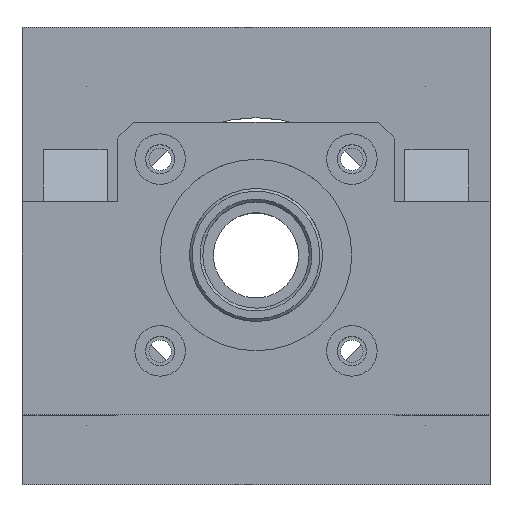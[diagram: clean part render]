
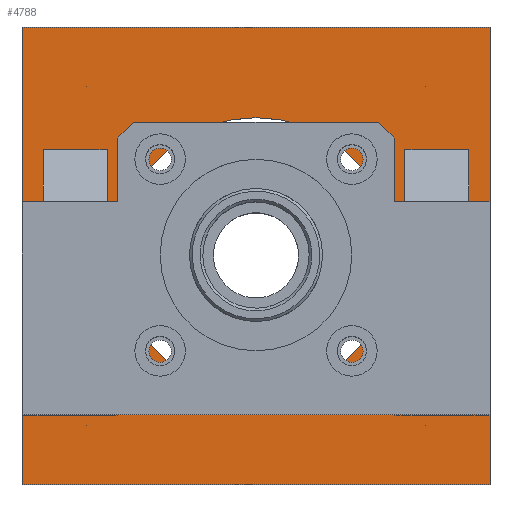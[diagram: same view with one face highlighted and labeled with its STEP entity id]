
A CAD part, top view. The second image highlights one B-rep face of the part: STEP entity #4788.
In plain terms, the highlighted planar face has unit normal (0, 0, 1).
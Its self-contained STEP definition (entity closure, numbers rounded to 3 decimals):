
#2503=DIRECTION('',(-1.,0.,0.));
#2504=VECTOR('',#2503,88.);
#2505=CARTESIAN_POINT('',(44.,43.,105.));
#2506=LINE('',#2505,#2504);
#2507=DIRECTION('',(0.,1.,0.));
#2508=VECTOR('',#2507,86.);
#2509=CARTESIAN_POINT('',(44.,-43.,105.));
#2510=LINE('',#2509,#2508);
#2511=DIRECTION('',(1.,0.,0.));
#2512=VECTOR('',#2511,88.);
#2513=CARTESIAN_POINT('',(-44.,-43.,105.));
#2514=LINE('',#2513,#2512);
#2515=DIRECTION('',(0.,-1.,0.));
#2516=VECTOR('',#2515,86.);
#2517=CARTESIAN_POINT('',(-44.,43.,105.));
#2518=LINE('',#2517,#2516);
#2519=DIRECTION('',(0.,1.,0.));
#2520=VECTOR('',#2519,50.);
#2521=CARTESIAN_POINT('',(28.,-30.,105.));
#2522=LINE('',#2521,#2520);
#2523=DIRECTION('',(-1.,0.,0.));
#2524=VECTOR('',#2523,12.);
#2525=CARTESIAN_POINT('',(40.,-30.,105.));
#2526=LINE('',#2525,#2524);
#2527=DIRECTION('',(0.,-1.,0.));
#2528=VECTOR('',#2527,50.);
#2529=CARTESIAN_POINT('',(40.,20.,105.));
#2530=LINE('',#2529,#2528);
#2531=DIRECTION('',(1.,0.,0.));
#2532=VECTOR('',#2531,12.);
#2533=CARTESIAN_POINT('',(28.,20.,105.));
#2534=LINE('',#2533,#2532);
#2535=CARTESIAN_POINT('',(0.,0.,105.));
#2536=DIRECTION('',(0.,0.,-1.));
#2537=DIRECTION('',(-1.,0.,0.));
#2538=AXIS2_PLACEMENT_3D('',#2535,#2536,#2537);
#2540=CARTESIAN_POINT('',(0.,0.,105.));
#2541=DIRECTION('',(0.,0.,-1.));
#2542=DIRECTION('',(1.,0.,0.));
#2543=AXIS2_PLACEMENT_3D('',#2540,#2541,#2542);
#2545=DIRECTION('',(0.,1.,0.));
#2546=VECTOR('',#2545,50.);
#2547=CARTESIAN_POINT('',(-40.,-30.,105.));
#2548=LINE('',#2547,#2546);
#2549=DIRECTION('',(-1.,0.,0.));
#2550=VECTOR('',#2549,12.);
#2551=CARTESIAN_POINT('',(-28.,-30.,105.));
#2552=LINE('',#2551,#2550);
#2553=DIRECTION('',(0.,-1.,0.));
#2554=VECTOR('',#2553,50.);
#2555=CARTESIAN_POINT('',(-28.,20.,105.));
#2556=LINE('',#2555,#2554);
#3421=DIRECTION('',(-1.,0.,0.));
#3422=VECTOR('',#3421,12.);
#3423=CARTESIAN_POINT('',(-28.,20.,105.));
#3424=LINE('',#3423,#3422);
#3629=CARTESIAN_POINT('',(28.,-30.,105.));
#3630=VERTEX_POINT('',#3629);
#3631=CARTESIAN_POINT('',(40.,-30.,105.));
#3632=VERTEX_POINT('',#3631);
#3661=CARTESIAN_POINT('',(-40.,-30.,105.));
#3662=VERTEX_POINT('',#3661);
#3663=CARTESIAN_POINT('',(-28.,-30.,105.));
#3664=VERTEX_POINT('',#3663);
#3728=CARTESIAN_POINT('',(44.,43.,105.));
#3729=CARTESIAN_POINT('',(-44.,43.,105.));
#3730=VERTEX_POINT('',#3728);
#3731=VERTEX_POINT('',#3729);
#3732=CARTESIAN_POINT('',(-44.,-43.,105.));
#3733=VERTEX_POINT('',#3732);
#3734=CARTESIAN_POINT('',(44.,-43.,105.));
#3735=VERTEX_POINT('',#3734);
#3736=CARTESIAN_POINT('',(28.,20.,105.));
#3737=VERTEX_POINT('',#3736);
#3738=CARTESIAN_POINT('',(40.,20.,105.));
#3739=VERTEX_POINT('',#3738);
#3740=CARTESIAN_POINT('',(-28.,20.,105.));
#3741=CARTESIAN_POINT('',(-40.,20.,105.));
#3742=VERTEX_POINT('',#3740);
#3743=VERTEX_POINT('',#3741);
#3926=CARTESIAN_POINT('',(-26.,0.,105.));
#3928=VERTEX_POINT('',#3926);
#3930=CARTESIAN_POINT('',(26.,0.,105.));
#3932=VERTEX_POINT('',#3930);
#4750=CARTESIAN_POINT('',(0.,0.,105.));
#4751=DIRECTION('',(0.,0.,-1.));
#4752=DIRECTION('',(-1.,0.,0.));
#4753=AXIS2_PLACEMENT_3D('',#4750,#4751,#4752);
#4754=PLANE('',#4753);
#4756=ORIENTED_EDGE('',*,*,#4755,.F.);
#4758=ORIENTED_EDGE('',*,*,#4757,.F.);
#4760=ORIENTED_EDGE('',*,*,#4759,.F.);
#4762=ORIENTED_EDGE('',*,*,#4761,.F.);
#4763=EDGE_LOOP('',(#4756,#4758,#4760,#4762));
#4764=FACE_OUTER_BOUND('',#4763,.F.);
#4765=ORIENTED_EDGE('',*,*,#4741,.F.);
#4766=ORIENTED_EDGE('',*,*,#4393,.F.);
#4768=ORIENTED_EDGE('',*,*,#4767,.F.);
#4770=ORIENTED_EDGE('',*,*,#4769,.F.);
#4771=EDGE_LOOP('',(#4765,#4766,#4768,#4770));
#4772=FACE_BOUND('',#4771,.F.);
#4774=ORIENTED_EDGE('',*,*,#4773,.F.);
#4776=ORIENTED_EDGE('',*,*,#4775,.F.);
#4777=EDGE_LOOP('',(#4774,#4776));
#4778=FACE_BOUND('',#4777,.F.);
#4780=ORIENTED_EDGE('',*,*,#4779,.T.);
#4782=ORIENTED_EDGE('',*,*,#4781,.F.);
#4783=ORIENTED_EDGE('',*,*,#4361,.F.);
#4785=ORIENTED_EDGE('',*,*,#4784,.F.);
#4786=EDGE_LOOP('',(#4780,#4782,#4783,#4785));
#4787=FACE_BOUND('',#4786,.F.);
#2539=CIRCLE('',#2538,26.);
#2544=CIRCLE('',#2543,26.);
#4361=EDGE_CURVE('',#3664,#3662,#2552,.T.);
#4393=EDGE_CURVE('',#3632,#3630,#2526,.T.);
#4741=EDGE_CURVE('',#3630,#3737,#2522,.T.);
#4755=EDGE_CURVE('',#3730,#3731,#2506,.T.);
#4757=EDGE_CURVE('',#3735,#3730,#2510,.T.);
#4759=EDGE_CURVE('',#3733,#3735,#2514,.T.);
#4761=EDGE_CURVE('',#3731,#3733,#2518,.T.);
#4767=EDGE_CURVE('',#3739,#3632,#2530,.T.);
#4769=EDGE_CURVE('',#3737,#3739,#2534,.T.);
#4773=EDGE_CURVE('',#3928,#3932,#2539,.T.);
#4775=EDGE_CURVE('',#3932,#3928,#2544,.T.);
#4779=EDGE_CURVE('',#3742,#3743,#3424,.T.);
#4781=EDGE_CURVE('',#3662,#3743,#2548,.T.);
#4784=EDGE_CURVE('',#3742,#3664,#2556,.T.);
#4788=ADVANCED_FACE('',(#4764,#4772,#4778,#4787),#4754,.F.);
